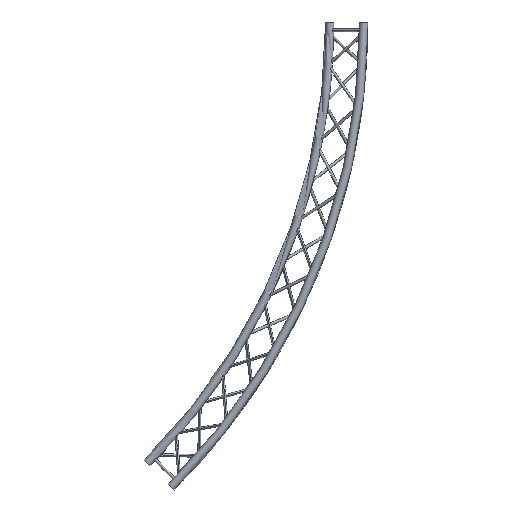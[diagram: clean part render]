
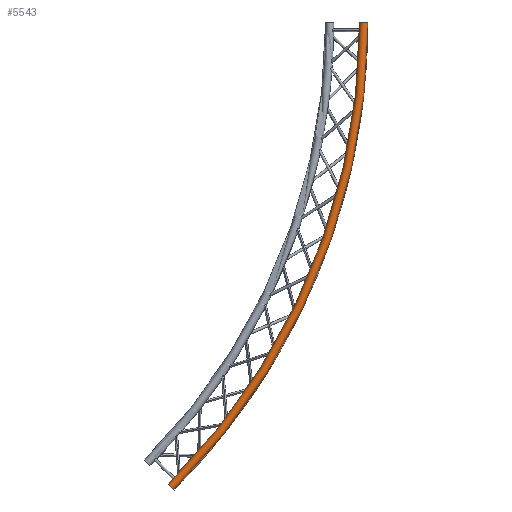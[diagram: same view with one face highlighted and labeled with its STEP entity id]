
A CAD part, front view. The second image highlights one B-rep face of the part: STEP entity #5543.
In plain terms, the highlighted toroidal (fillet/blend) face has major radius 3975 mm and minor radius 25 mm.
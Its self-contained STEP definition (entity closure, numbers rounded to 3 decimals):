
#3199 = DIRECTION ( 'NONE',  ( 0.707, 0., 0.707 ) ) ;
#3200 = CARTESIAN_POINT ( 'NONE',  ( 2810.749, -118.5, -2810.749 ) ) ;
#3202 = AXIS2_PLACEMENT_3D ( 'NONE', #3200, #3199, #10591 ) ;
#3203 = CIRCLE ( 'NONE', #3202, 25. ) ;
#3337 = CIRCLE ( 'NONE', #3373, 4000. ) ;
#3369 = CARTESIAN_POINT ( 'NONE',  ( 4000., -118.5, 0. ) ) ;
#3370 = DIRECTION ( 'NONE',  ( 0., 0., -1. ) ) ;
#3371 = DIRECTION ( 'NONE',  ( 0., -1., 0. ) ) ;
#3372 = CARTESIAN_POINT ( 'NONE',  ( 0., -118.5, 0. ) ) ;
#3373 = AXIS2_PLACEMENT_3D ( 'NONE', #3372, #3371, #3370 ) ;
#3458 = CARTESIAN_POINT ( 'NONE',  ( 3975., -118.5, 0. ) ) ;
#3494 = DIRECTION ( 'NONE',  ( 1., 0., 0. ) ) ;
#3495 = DIRECTION ( 'NONE',  ( 0., 0., 1. ) ) ;
#3496 = AXIS2_PLACEMENT_3D ( 'NONE', #3458, #3495, #3494 ) ;
#3497 = CIRCLE ( 'NONE', #3496, 25. ) ;
#3504 = DIRECTION ( 'NONE',  ( 0., 0., -1. ) ) ;
#3505 = DIRECTION ( 'NONE',  ( 0., -1., 0. ) ) ;
#3506 = CARTESIAN_POINT ( 'NONE',  ( 0., -118.5, 0. ) ) ;
#3507 = AXIS2_PLACEMENT_3D ( 'NONE', #3506, #3505, #3504 ) ;
#3509 = TOROIDAL_SURFACE ( 'NONE', #3507, 3975., 25. ) ;
#3514 = FACE_OUTER_BOUND ( 'NONE', #5547, .T. ) ;
#3571 = CARTESIAN_POINT ( 'NONE',  ( 2793.072, -118.5, -2793.072 ) ) ;
#3572 = CARTESIAN_POINT ( 'NONE',  ( 2828.427, -118.5, -2828.427 ) ) ;
#3588 = CIRCLE ( 'NONE', #3630, 3950. ) ;
#3627 = DIRECTION ( 'NONE',  ( 0., 0., -1. ) ) ;
#3628 = DIRECTION ( 'NONE',  ( 0., -1., 0. ) ) ;
#3629 = CARTESIAN_POINT ( 'NONE',  ( 0., -118.5, 0. ) ) ;
#3630 = AXIS2_PLACEMENT_3D ( 'NONE', #3629, #3628, #3627 ) ;
#3690 = CARTESIAN_POINT ( 'NONE',  ( 3950., -118.5, 0. ) ) ;
#5535 = EDGE_CURVE ( 'NONE', #5553, #5536, #3337, .T. ) ;
#5536 = VERTEX_POINT ( 'NONE', #3369 ) ;
#5538 = ORIENTED_EDGE ( 'NONE', *, *, #5539, .F. ) ;
#5539 = EDGE_CURVE ( 'NONE', #5578, #5536, #3497, .T. ) ;
#5543 = ADVANCED_FACE ( 'NONE', ( #3514 ), #3509, .T. ) ;
#5547 = EDGE_LOOP ( 'NONE', ( #5551, #5552, #5538, #5573 ) ) ;
#5548 = EDGE_CURVE ( 'NONE', #5554, #5553, #3203, .T. ) ;
#5551 = ORIENTED_EDGE ( 'NONE', *, *, #5548, .T. ) ;
#5552 = ORIENTED_EDGE ( 'NONE', *, *, #5535, .T. ) ;
#5553 = VERTEX_POINT ( 'NONE', #3572 ) ;
#5554 = VERTEX_POINT ( 'NONE', #3571 ) ;
#5573 = ORIENTED_EDGE ( 'NONE', *, *, #5574, .F. ) ;
#5574 = EDGE_CURVE ( 'NONE', #5554, #5578, #3588, .T. ) ;
#5578 = VERTEX_POINT ( 'NONE', #3690 ) ;
#10591 = DIRECTION ( 'NONE',  ( 0.707, 0., -0.707 ) ) ;
